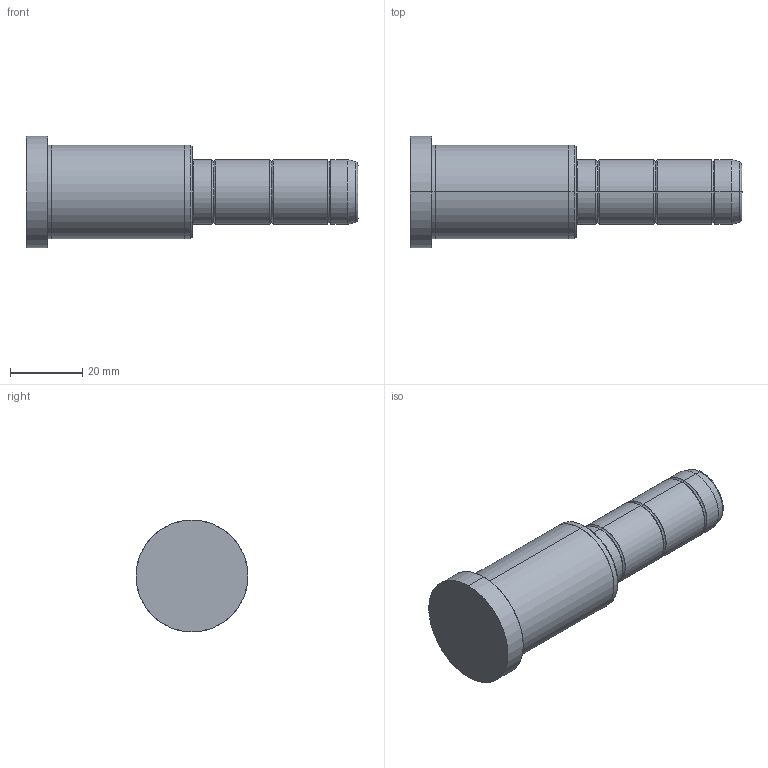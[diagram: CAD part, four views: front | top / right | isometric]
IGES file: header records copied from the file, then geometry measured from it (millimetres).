
Start section: SolidWorks IGES file using analytic representation for surfaces
Global section: file name: C:\Documents and Settings\kalite-mail\Desktop\IGS\D02\18\D02 - 18x46x46.IGS; native system: SolidWorks 2008; preprocessor: SolidWorks 2008; author: kalite-mail; date: 080616.151024; units: millimetre
Bounding box: 92 x 31 x 31 mm (x, y, z)
Surface area: 7960.3 mm2 (no closed solid volume)
Topology: 0 solids, 0 shells, 42 faces, 528 edges, 528 vertices
Faces by surface type: bspline 22, revolution 20
